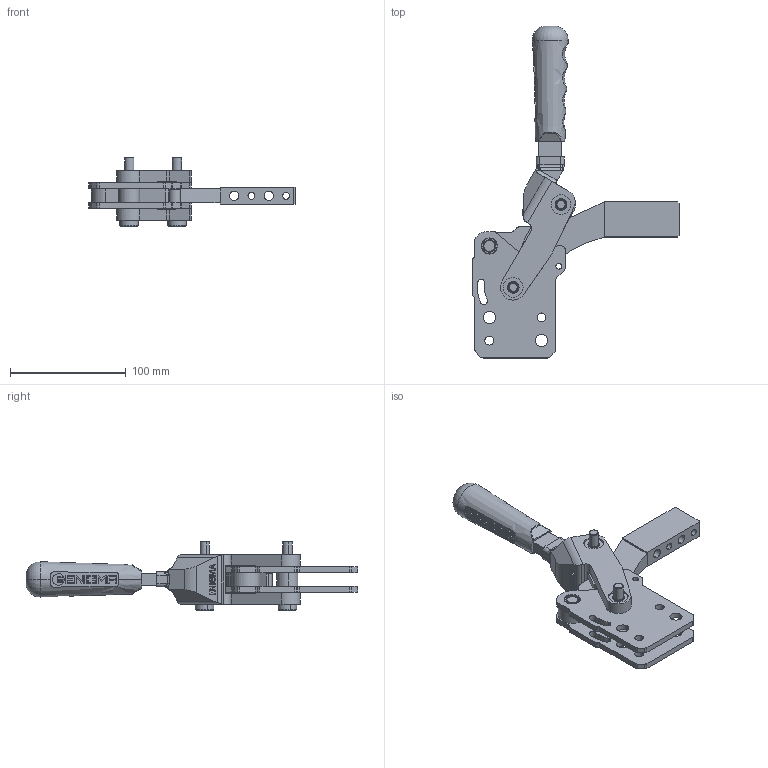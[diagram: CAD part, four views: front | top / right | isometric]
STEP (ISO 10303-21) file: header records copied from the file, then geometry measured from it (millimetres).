
FILE_DESCRIPTION (( 'STEP AP203' ), '1' );
FILE_NAME ('1575_D.STEP', '2022-12-06T13:26:54', ( '' ), ( '' ), 'SwSTEP 2.0', 'SolidWorks 2023', '' );
FILE_SCHEMA (( 'CONFIG_CONTROL_DESIGN' ));
Length unit declared in the file: millimetre
Products named in the file (13): 1575_D; 1535_cap10x18_ara mesafe burcu_Varsayılan; 1505_MafsalGrubu_Kilitli_Varsayılan; 1545_BASKIKOLU_YARIŞKABİN_2; C100_Yeni_Tutamak_8x20_Varsayılan; 1535_cap5x12_on paralel burc_Varsayılan; 1535_HareketKolu_Varsayılan; AS_5_D_G_Varsayılan; 1535_dovme mafsal_Varsayılan; 1535_Mafsal_5mm_Varsayılan; 1535_Cap10x22 Tırtıllı Pim_Varsayılan; G39x8x10x40_Varsayılan; 1535_Burc_14x10x5_Varsayılan
Assembly tree (22 placements, depth 3):
  1575_D
    1505_MafsalGrubu_Kilitli_Varsayılan
      1535_dovme mafsal_Varsayılan
      1535_Mafsal_5mm_Varsayılan  x2
      1535_Burc_14x10x5_Varsayılan  x4
      G39x8x10x40_Varsayılan  x2
      1535_cap10x18_ara mesafe burcu_Varsayılan  x2
    1535_cap5x12_on paralel burc_Varsayılan
    1535_Cap10x22 Tırtıllı Pim_Varsayılan  x2
    1535_Burc_14x10x5_Varsayılan  x2
    1535_HareketKolu_Varsayılan
    1545_BASKIKOLU_YARIŞKABİN_2
    C100_Yeni_Tutamak_8x20_Varsayılan
    AS_5_D_G_Varsayılan  x2
Bounding box: 178.68 x 286.78 x 60 mm (x, y, z)
Volume: 299291.9 mm3; surface area: 113344.5 mm2
Topology: 21 solids, 21 shells, 1383 faces, 3556 edges, 2242 vertices
Faces by surface type: plane 861, cylinder 333, cone 98, bspline 77, torus 14
Entity records: 27955 total; most frequent: CARTESIAN_POINT 8470, ORIENTED_EDGE 3870, DIRECTION 3493, EDGE_CURVE 1935, VERTEX_POINT 1254, VECTOR 1187, LINE 1187, AXIS2_PLACEMENT_3D 1153
